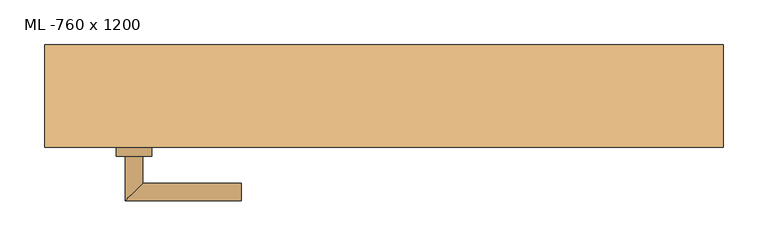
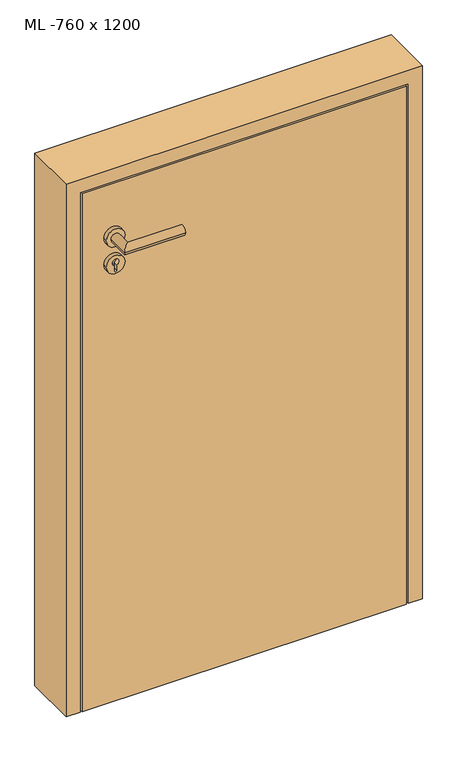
"""IFC4 building model written with IfcOpenShell, lengths in millimetres: door geometry, TU DF 1 - Rahmenstock flächenbündig : ML -760 x 1200."""

from ifc_helpers import new_model, si_unit, point, frame, frame_2d, origin, origin_with_axes, place, context, project, spatial, polyline, circle_curve, ellipse_curve, trimmed, segment, composite_curve, outline, extrude, faceted_brep, source, transform, mapped, element, save
from ifc_brep_helpers import plane_surface, cylinder_surface, advanced_brep


def ml_760_x_1200_513c8107(model_context):
    return source(origin(), model_context, "Body", "SolidModel", [
        extrude(outline(polyline([(346.0, -57.5), (-346.0, -57.5), (-346.0, -12.5), (346.0, -12.5), (346.0, -57.5)])), origin_with_axes(), (0.0, 0.0, 1.0), 1166.0),
        advanced_brep(
        [(-270.0, -67.5, 1050.0), (-290.0, -67.5, 1050.0), (-290.0, -117.5, 1050.0), (-270.0, -97.5, 1050.0), (-160.0, -97.5, 1050.0), (-160.0, -117.5, 1050.0)],
        [
            (0, 1, circle_curve(frame((-280.0, -67.5, 1050.0), z_axis=(0.0, 1.0, 0.0), x_axis=(-1.0, 0.0, 0.0)), 10.0)),
            (1, 0, circle_curve(frame((-280.0, -67.5, 1050.0), z_axis=(0.0, 1.0, 0.0), x_axis=(-1.0, 0.0, 0.0)), 10.0)),
            (1, 2),
            (2, 3, ellipse_curve(frame((-280.0, -107.5, 1050.0), z_axis=(-0.7071067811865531, 0.7071067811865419, 0.0), x_axis=(0.707106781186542, 0.707106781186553, 0.0)), 14.1421356, 10.0)),
            (3, 0),
            (3, 2, ellipse_curve(frame((-280.0, -107.5, 1050.0), z_axis=(-0.7071067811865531, 0.7071067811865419, 0.0), x_axis=(0.707106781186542, 0.707106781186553, 0.0)), 14.1421356, 10.0)),
            (4, 5, circle_curve(frame((-160.0, -107.5, 1050.0), z_axis=(1.0, 0.0, 0.0), x_axis=(0.0, -1.0, 0.0)), 10.0)),
            (5, 4, circle_curve(frame((-160.0, -107.5, 1050.0), z_axis=(1.0, 0.0, 0.0), x_axis=(0.0, -1.0, 0.0)), 10.0)),
            (2, 5),
            (4, 3),
        ],
        [
            plane_surface(frame((-280.0, -67.5, 1050.0), z_axis=(0.0, 1.0, 0.0), x_axis=(0.0, 0.0, 1.0))),
            cylinder_surface(frame((-280.0, -67.5, 1050.0), z_axis=(0.0, 1.0, 0.0), x_axis=(-1.0, 0.0, 0.0)), 10.0),
            plane_surface(frame((-160.0, -107.5, 1050.0), z_axis=(1.0, 0.0, 0.0), x_axis=(0.0, 0.0, 1.0))),
            cylinder_surface(frame((-280.0, -107.5, 1050.0), z_axis=(-1.0, 0.0, 0.0), x_axis=(0.0, -1.0, 0.0)), 10.0),
        ],
        [
            (0, [[1, 2]]),
            (1, [[3, 4, 5, -2]]),
            (1, [[-5, 6, -3, -1]]),
            (2, [[7, 8]]),
            (3, [[9, -7, 10, -4]]),
            (3, [[-10, -8, -9, -6]]),
        ],
    ),
        extrude(outline(composite_curve([segment(trimmed(circle_curve(frame_2d((990.0, -280.0)), 20.0), [point((990.0, -300.0))], [point((990.0, -260.0))], False, "CARTESIAN"), True, "CONTINUOUS"), segment(trimmed(circle_curve(frame_2d((990.0, -280.0)), 20.0), [point((990.0, -260.0))], [point((990.0, -300.0))], False, "CARTESIAN"), True, "CONTINUOUS")], self_intersect=False), holes=[composite_curve([segment(polyline([(976.4601385, -282.397268), (988.4749012, -282.397268)]), True, "CONTINUOUS"), segment(trimmed(circle_curve(frame_2d((995.0361633, -280.0)), 6.9854888), [point((988.4749012, -282.397268))], [point((988.4749012, -277.602732))], True, "CARTESIAN"), True, "CONTINUOUS"), segment(polyline([(988.4749012, -277.602732), (976.4601385, -277.602732)]), True, "CONTINUOUS"), segment(trimmed(circle_curve(frame_2d((976.4601385, -280.0)), 2.397268), [point((976.4601385, -277.602732))], [point((976.4601385, -282.397268))], True, "CARTESIAN"), True, "CONTINUOUS")], self_intersect=False)]), frame((0.0, -67.5, 0.0), z_axis=(0.0, 1.0, 0.0), x_axis=(0.0, 0.0, 1.0)), (0.0, 0.0, 1.0), 10.0),
        advanced_brep(
        [(-270.0, -67.5, 1050.0), (-290.0, -67.5, 1050.0), (-290.0, -117.5, 1050.0), (-270.0, -97.5, 1050.0), (-160.0, -97.5, 1050.0), (-160.0, -117.5, 1050.0)],
        [
            (0, 1, circle_curve(frame((-280.0, -67.5, 1050.0), z_axis=(0.0, 1.0, 0.0), x_axis=(-1.0, 0.0, 0.0)), 10.0)),
            (1, 0, circle_curve(frame((-280.0, -67.5, 1050.0), z_axis=(0.0, 1.0, 0.0), x_axis=(-1.0, 0.0, 0.0)), 10.0)),
            (1, 2),
            (2, 3, ellipse_curve(frame((-280.0, -107.5, 1050.0), z_axis=(-0.7071067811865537, 0.7071067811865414, 0.0), x_axis=(0.7071067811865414, 0.7071067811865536, 0.0)), 14.1421356, 10.0)),
            (3, 0),
            (3, 2, ellipse_curve(frame((-280.0, -107.5, 1050.0), z_axis=(-0.7071067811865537, 0.7071067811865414, 0.0), x_axis=(0.7071067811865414, 0.7071067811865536, 0.0)), 14.1421356, 10.0)),
            (4, 5, circle_curve(frame((-160.0, -107.5, 1050.0), z_axis=(1.0, 0.0, 0.0), x_axis=(0.0, -1.0, 0.0)), 10.0)),
            (5, 4, circle_curve(frame((-160.0, -107.5, 1050.0), z_axis=(1.0, 0.0, 0.0), x_axis=(0.0, -1.0, 0.0)), 10.0)),
            (2, 5),
            (4, 3),
        ],
        [
            plane_surface(frame((-280.0, -67.5, 1050.0), z_axis=(0.0, 1.0, 0.0), x_axis=(0.0, 0.0, 1.0))),
            cylinder_surface(frame((-280.0, -67.5, 1050.0), z_axis=(0.0, 1.0, 0.0), x_axis=(-1.0, 0.0, 0.0)), 10.0),
            plane_surface(frame((-160.0, -107.5, 1050.0), z_axis=(1.0, 0.0, 0.0), x_axis=(0.0, 0.0, 1.0))),
            cylinder_surface(frame((-280.0, -107.5, 1050.0), z_axis=(-1.0, 0.0, 0.0), x_axis=(0.0, -1.0, 0.0)), 10.0),
        ],
        [
            (0, [[1, 2]]),
            (1, [[3, 4, 5, -2]]),
            (1, [[-5, 6, -3, -1]]),
            (2, [[7, 8]]),
            (3, [[9, -7, 10, -4]]),
            (3, [[-10, -8, -9, -6]]),
        ],
    ),
        extrude(outline(composite_curve([segment(trimmed(circle_curve(frame_2d((1050.0, -280.0)), 20.0), [point((1050.0, -300.0))], [point((1050.0, -260.0))], False, "CARTESIAN"), True, "CONTINUOUS"), segment(trimmed(circle_curve(frame_2d((1050.0, -280.0)), 20.0), [point((1050.0, -260.0))], [point((1050.0, -300.0))], False, "CARTESIAN"), True, "CONTINUOUS")], self_intersect=False)), frame((0.0, -67.5, 0.0), z_axis=(0.0, 1.0, 0.0), x_axis=(0.0, 0.0, 1.0)), (0.0, 0.0, 1.0), 10.0),
        advanced_brep(
        [(-270.0, -2.5, 1050.0), (-290.0, -2.5, 1050.0), (-270.0, 27.5, 1050.0), (-290.0, 47.5, 1050.0), (-160.0, 27.5, 1050.0), (-160.0, 47.5, 1050.0)],
        [
            (0, 1, circle_curve(frame((-280.0, -2.5, 1050.0), z_axis=(0.0, -1.0, 0.0), x_axis=(-1.0, 0.0, 0.0)), 10.0)),
            (1, 0, circle_curve(frame((-280.0, -2.5, 1050.0), z_axis=(0.0, -1.0, 0.0), x_axis=(-1.0, 0.0, 0.0)), 10.0)),
            (0, 2),
            (2, 3, ellipse_curve(frame((-280.0, 37.5, 1050.0), z_axis=(-0.7071067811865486, -0.7071067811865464, 0.0), x_axis=(0.7071067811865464, -0.7071067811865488, 0.0)), 14.1421356, 10.0)),
            (3, 1),
            (3, 2, ellipse_curve(frame((-280.0, 37.5, 1050.0), z_axis=(-0.7071067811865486, -0.7071067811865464, 0.0), x_axis=(0.7071067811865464, -0.7071067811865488, 0.0)), 14.1421356, 10.0)),
            (4, 5, circle_curve(frame((-160.0, 37.5, 1050.0), z_axis=(1.0, 0.0, 0.0), x_axis=(0.0, 1.0, 0.0)), 10.0)),
            (5, 4, circle_curve(frame((-160.0, 37.5, 1050.0), z_axis=(1.0, 0.0, 0.0), x_axis=(0.0, 1.0, 0.0)), 10.0)),
            (2, 4),
            (5, 3),
        ],
        [
            plane_surface(frame((-280.0, -2.5, 1050.0), z_axis=(0.0, -1.0, 0.0), x_axis=(0.0, 0.0, 1.0))),
            cylinder_surface(frame((-280.0, -2.5, 1050.0), z_axis=(0.0, -1.0, 0.0), x_axis=(-1.0, 0.0, 0.0)), 10.0),
            plane_surface(frame((-160.0, 37.5, 1050.0), z_axis=(1.0, 0.0, 0.0), x_axis=(0.0, 0.0, 1.0))),
            cylinder_surface(frame((-280.0, 37.5, 1050.0), z_axis=(-1.0, 0.0, 0.0), x_axis=(0.0, 1.0, 0.0)), 10.0),
        ],
        [
            (0, [[1, 2]]),
            (1, [[-1, 3, 4, 5]]),
            (1, [[-2, -5, 6, -3]]),
            (2, [[7, 8]]),
            (3, [[-4, 9, -8, 10]]),
            (3, [[-6, -10, -7, -9]]),
        ],
    ),
        extrude(outline(composite_curve([segment(trimmed(circle_curve(frame_2d((990.0, -280.0)), 20.0), [point((990.0, -300.0))], [point((990.0, -260.0))], False, "CARTESIAN"), True, "CONTINUOUS"), segment(trimmed(circle_curve(frame_2d((990.0, -280.0)), 20.0), [point((990.0, -260.0))], [point((990.0, -300.0))], False, "CARTESIAN"), True, "CONTINUOUS")], self_intersect=False), holes=[composite_curve([segment(polyline([(976.4601385, -282.397268), (988.4749012, -282.397268)]), True, "CONTINUOUS"), segment(trimmed(circle_curve(frame_2d((995.0361633, -280.0)), 6.9854888), [point((988.4749012, -282.397268))], [point((988.4749012, -277.602732))], True, "CARTESIAN"), True, "CONTINUOUS"), segment(polyline([(988.4749012, -277.602732), (976.4601385, -277.602732)]), True, "CONTINUOUS"), segment(trimmed(circle_curve(frame_2d((976.4601385, -280.0)), 2.397268), [point((976.4601385, -277.602732))], [point((976.4601385, -282.397268))], True, "CARTESIAN"), True, "CONTINUOUS")], self_intersect=False)]), frame((0.0, -12.5, 0.0), z_axis=(0.0, 1.0, 0.0), x_axis=(0.0, 0.0, 1.0)), (0.0, 0.0, 1.0), 10.0),
        advanced_brep(
        [(-270.0, -2.5, 1050.0), (-290.0, -2.5, 1050.0), (-270.0, 27.5, 1050.0), (-290.0, 47.5, 1050.0), (-160.0, 27.5, 1050.0), (-160.0, 47.5, 1050.0)],
        [
            (0, 1, circle_curve(frame((-280.0, -2.5, 1050.0), z_axis=(0.0, -1.0, 0.0), x_axis=(-1.0, 0.0, 0.0)), 10.0)),
            (1, 0, circle_curve(frame((-280.0, -2.5, 1050.0), z_axis=(0.0, -1.0, 0.0), x_axis=(-1.0, 0.0, 0.0)), 10.0)),
            (0, 2),
            (2, 3, ellipse_curve(frame((-280.0, 37.5, 1050.0), z_axis=(-0.7071067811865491, -0.7071067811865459, 0.0), x_axis=(0.7071067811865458, -0.7071067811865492, 0.0)), 14.1421356, 10.0)),
            (3, 1),
            (3, 2, ellipse_curve(frame((-280.0, 37.5, 1050.0), z_axis=(-0.7071067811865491, -0.7071067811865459, 0.0), x_axis=(0.7071067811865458, -0.7071067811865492, 0.0)), 14.1421356, 10.0)),
            (4, 5, circle_curve(frame((-160.0, 37.5, 1050.0), z_axis=(1.0, 0.0, 0.0), x_axis=(0.0, 1.0, 0.0)), 10.0)),
            (5, 4, circle_curve(frame((-160.0, 37.5, 1050.0), z_axis=(1.0, 0.0, 0.0), x_axis=(0.0, 1.0, 0.0)), 10.0)),
            (2, 4),
            (5, 3),
        ],
        [
            plane_surface(frame((-280.0, -2.5, 1050.0), z_axis=(0.0, -1.0, 0.0), x_axis=(0.0, 0.0, 1.0))),
            cylinder_surface(frame((-280.0, -2.5, 1050.0), z_axis=(0.0, -1.0, 0.0), x_axis=(-1.0, 0.0, 0.0)), 10.0),
            plane_surface(frame((-160.0, 37.5, 1050.0), z_axis=(1.0, 0.0, 0.0), x_axis=(0.0, 0.0, 1.0))),
            cylinder_surface(frame((-280.0, 37.5, 1050.0), z_axis=(-1.0, 0.0, 0.0), x_axis=(0.0, 1.0, 0.0)), 10.0),
        ],
        [
            (0, [[1, 2]]),
            (1, [[-1, 3, 4, 5]]),
            (1, [[-2, -5, 6, -3]]),
            (2, [[7, 8]]),
            (3, [[-4, 9, -8, 10]]),
            (3, [[-6, -10, -7, -9]]),
        ],
    ),
        extrude(outline(composite_curve([segment(trimmed(circle_curve(frame_2d((1050.0, -280.0)), 20.0), [point((1050.0, -300.0))], [point((1050.0, -260.0))], False, "CARTESIAN"), True, "CONTINUOUS"), segment(trimmed(circle_curve(frame_2d((1050.0, -280.0)), 20.0), [point((1050.0, -260.0))], [point((1050.0, -300.0))], False, "CARTESIAN"), True, "CONTINUOUS")], self_intersect=False)), frame((0.0, -12.5, 0.0), z_axis=(0.0, 1.0, 0.0), x_axis=(0.0, 0.0, 1.0)), (0.0, 0.0, 1.0), 10.0),
        faceted_brep([(-350.0, -57.5, 0.0), (-380.0, -57.5, 0.0), (-380.0, 57.5, 0.0), (-335.0, 57.5, 0.0), (-335.0, -12.5, 0.0), (-350.0, -12.5, 0.0), (-350.0, -12.5, 1170.0), (-350.0, -57.5, 1170.0), (-335.0, -12.5, 1155.0), (335.0, -12.5, 1155.0), (335.0, -12.5, 0.0), (350.0, -12.5, 0.0), (350.0, -12.5, 1170.0), (-335.0, 57.5, 1155.0), (-380.0, 57.5, 1200.0), (380.0, 57.5, 1200.0), (380.0, 57.5, 0.0), (335.0, 57.5, 0.0), (335.0, 57.5, 1155.0), (-380.0, -57.5, 1200.0), (350.0, -57.5, 1170.0), (350.0, -57.5, 0.0), (380.0, -57.5, 0.0), (380.0, -57.5, 1200.0)], [[[0, 1, 2, 3, 4, 5]], [[5, 6, 7, 0]], [[4, 8, 9, 10, 11, 12, 6, 5]], [[3, 13, 8, 4]], [[2, 14, 15, 16, 17, 18, 13, 3]], [[1, 19, 14, 2]], [[0, 7, 20, 21, 22, 23, 19, 1]], [[23, 22, 16, 15]], [[21, 11, 10, 17, 16, 22]], [[12, 11, 21, 20]], [[18, 17, 10, 9]], [[19, 23, 15, 14]], [[13, 18, 9, 8]], [[6, 12, 20, 7]]]),
    ])


if __name__ == "__main__":
    model = new_model("IFC4")
    model_context = context("Model", 3, world=origin())
    ifc_project = project(units=[si_unit("LENGTHUNIT", "METRE", prefix="MILLI")], contexts=[model_context])
    site = spatial("IfcSite", under=ifc_project)
    building = spatial("IfcBuilding", under=site)
    placement = place(None, origin())
    ml_760_x_1200_shape = ml_760_x_1200_513c8107(model_context)
    element("IfcDoor", 1, ObjectType="TU DF 1 - Rahmenstock flächenbündig : ML -760 x 1200", at=placement, inside=building, context=model_context, shape_type="MappedRepresentation", body=[
        mapped(ml_760_x_1200_shape, transform((0.0, 0.0, 0.0), x_axis=(1.0, 0.0, 0.0), y_axis=(0.0, 1.0, 0.0), z_axis=(0.0, 0.0, 1.0))),
    ])
    save(model, "model.ifc")
